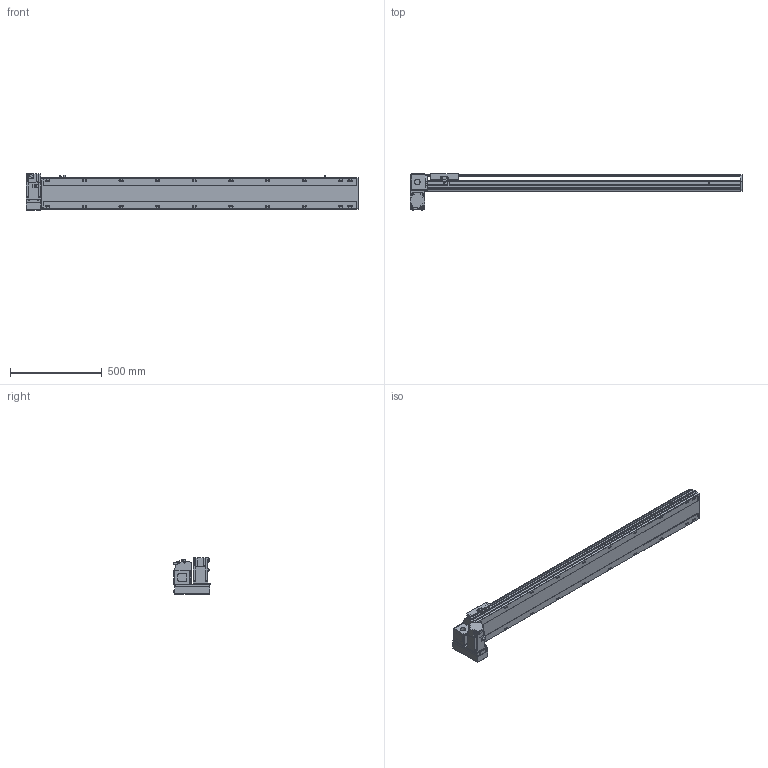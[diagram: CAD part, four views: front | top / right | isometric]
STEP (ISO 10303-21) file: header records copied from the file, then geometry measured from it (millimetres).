
FILE_DESCRIPTION( ( 'STEP AP214' ), '1' );
FILE_NAME( 'x:/temp/worker_4/temp/exporttempdir_2248_334_TwEjh/format_0/PBS170-P40-S1450-LD-T75-C1-N(0).stp', '2022-06-07T07:53:36', ( 'License CC BY-ND 4.0' ), ( 'CADENAS' ), ' ', 'PARTsolutions', ' ' );
FILE_SCHEMA( ( 'AUTOMOTIVE_DESIGN { 1 0 10303 214 1 1 1 1 }' ) );
Length unit declared in the file: millimetre
Products named in the file (7): PBS170-P40-S1450-LD-T75-C1-N(0); _PBS170-S1450()_body; _PBS170T-LD_motors; _T75-p1; _PBS170_sliser; _PBS170_plant; _PBS170_sensor
Assembly tree (8 placements, depth 2):
  PBS170-P40-S1450-LD-T75-C1-N(0)
    _PBS170-S1450()_body
    _PBS170T-LD_motors
    _T75-p1
    _PBS170_sliser
    _PBS170_plant
    _PBS170_sensor  x3
Bounding box: 1813 x 201 x 197.3 mm (x, y, z)
Volume: 14194067.4 mm3; surface area: 1828093.7 mm2
Topology: 8 solids, 8 shells, 1114 faces, 2955 edges, 1926 vertices
Faces by surface type: plane 699, cylinder 355, cone 50, sphere 8, torus 2
Full cylindrical faces by diameter (mm): 3.242 x4, 4 x2, 4.4 x4, 4.5 x6, 4.917 x4, 6 x9, 6.647 x28, 7 x2, 7.5 x4, 8 x8, 8.5 x20, 10 x4, 10.5 x20, 11 x2, 30 x2, 40 x1, 70 x1
Entity records: 41024 total; most frequent: CARTESIAN_POINT 6557, DIRECTION 5440, ORIENTED_EDGE 5148, EDGE_CURVE 2574, AXIS2_PLACEMENT_3D 1897, VERTEX_POINT 1778, LINE 1646, VECTOR 1646
